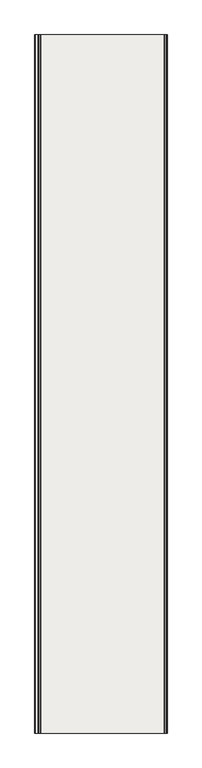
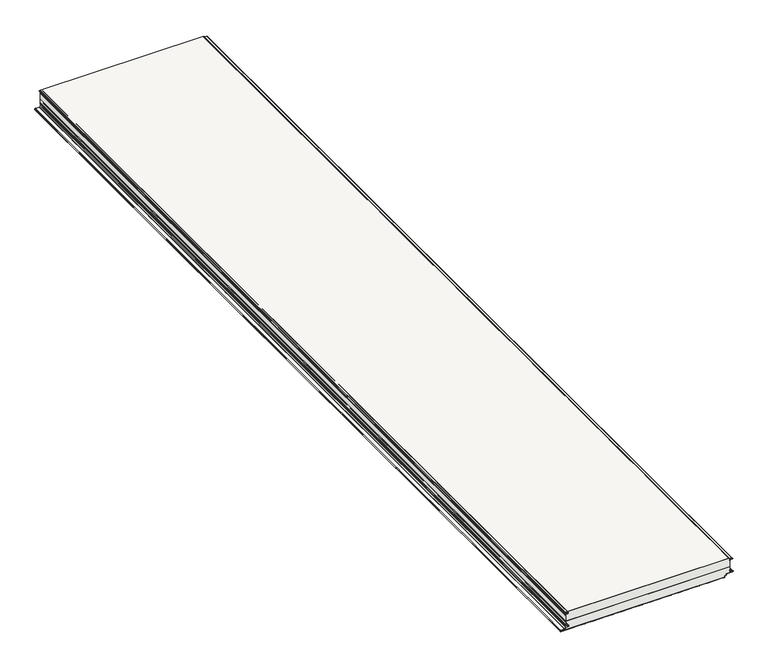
"""IFC4 building model written with IfcOpenShell, lengths in millimetres: covering geometry, Wall sandwich panel SPW-H CORE PIR (single sheet) : -."""

from ifc_helpers import new_model, si_unit, point, frame, frame_2d, origin, place, context, project, spatial, polyline, circle_curve, trimmed, segment, composite_curve, outline, extrude, source, transform, mapped, element, save
from ifc_brep_helpers import plane_surface, cylinder_surface, revolved_surface, advanced_brep


def covering_c912f855(model_context):
    return source(origin(), model_context, "Body", "SolidModel", [
        extrude(outline(composite_curve([segment(polyline([(-15.1088808, -1083.0523342), (-14.5423642, -1072.2421915)]), True, "CONTINUOUS"), segment(trimmed(circle_curve(frame_2d((-9.549216, -1072.5038626)), 5.0), [point((-14.5423642, -1072.2421915))], [point((-4.5522622, -1072.3293564))], False, "CARTESIAN"), True, "CONTINUOUS"), segment(polyline([(-4.5522622, -1072.3293564), (-4.0495702, -1086.7238513)]), True, "CONTINUOUS"), segment(trimmed(circle_curve(frame_2d((-2.5266447, -1086.6173526)), 1.5266447), [point((-4.0495702, -1086.7238513))], [point((-1.0, -1086.6173526))], True, "CARTESIAN"), True, "CONTINUOUS"), segment(polyline([(-1.0, -1086.6173526), (-1.0, -1085.0), (0.0, -1085.0), (0.0, -1086.6173526)]), True, "CONTINUOUS"), segment(trimmed(circle_curve(frame_2d((-2.5266447, -1086.6173526)), 2.5266447), [point((0.0, -1086.6173526))], [point((-5.0484281, -1086.7740115))], False, "CARTESIAN"), True, "CONTINUOUS"), segment(polyline([(-5.0484281, -1086.7740115), (-5.551653, -1072.3642576)]), True, "CONTINUOUS"), segment(trimmed(circle_curve(frame_2d((-9.549216, -1072.5038626)), 4.0), [point((-5.551653, -1072.3642576))], [point((-13.5437346, -1072.2945257))], True, "CARTESIAN"), True, "CONTINUOUS"), segment(polyline([(-13.5437346, -1072.2945257), (-14.1102512, -1083.1046684)]), True, "CONTINUOUS"), segment(trimmed(circle_curve(frame_2d((-16.1075105, -1083.0)), 2.0), [point((-14.1102512, -1083.1046684))], [point((-16.1075105, -1085.0))], False, "CARTESIAN"), True, "CONTINUOUS"), segment(polyline([(-16.1075105, -1085.0), (-18.1075105, -1085.0), (-18.1075105, -1084.0), (-16.1075105, -1084.0)]), True, "CONTINUOUS"), segment(trimmed(circle_curve(frame_2d((-16.1075105, -1083.0)), 1.0), [point((-16.1075105, -1084.0))], [point((-15.1088808, -1083.0523342))], True, "CARTESIAN"), True, "CONTINUOUS")], self_intersect=False)), frame((0.0, -5800.0, 0.0), z_axis=(0.0, 1.0, 0.0), x_axis=(0.0, 0.0, 1.0)), (0.0, 0.0, 1.0), 5800.0),
        advanced_brep(
        [(-1080.5824878, -5800.0, -102.0150874), (-1069.3324878, -5800.0, -101.9992045), (-1069.0709825, -5800.0, -92.0060522), (-1083.2742211, -5800.0, -91.2619406), (-1084.0, -5800.0, -90.4971426), (-1084.0, -5800.0, -81.4971426), (-1085.0, -5800.0, -81.4971426), (-1085.0, -5800.0, -90.4971426), (-1083.3265396, -5800.0, -92.260571), (-1069.123301, -5800.0, -93.0046827), (-1069.3331636, -5800.0, -100.9992044), (-1080.6396582, -5800.0, -101.0151671), (-1082.7899391, -5800.0, -102.27871), (-1088.1496634, -5800.0, -109.933474), (-1090.1975249, -5800.0, -110.9995686), (-1113.4143745, -5800.0, -110.9999738), (-1113.414296, -5800.0, -120.0), (-1085.0, -5800.0, -120.0), (-1085.0, -5800.0, -119.0), (-1113.414296, -5800.0, -119.0), (-1113.4143571, -5800.0, -112.0), (-1090.1975075, -5800.0, -111.9995686), (-1087.3305014, -5800.0, -110.5070361), (-1081.9707771, -5800.0, -102.8522722), (-1080.5824878, 0.0, -102.0150874), (-1081.9707771, 0.0, -102.8522722), (-1087.3305014, 0.0, -110.5070361), (-1090.1975075, 0.0, -111.9995686), (-1113.4143571, 0.0, -111.9999738), (-1113.414296, 0.0, -119.0), (-1085.0, 0.0, -119.0), (-1085.0, 0.0, -120.0), (-1113.414296, 0.0, -120.0), (-1113.4143745, 0.0, -111.0), (-1090.1975249, 0.0, -110.9995686), (-1088.1496634, 0.0, -109.933474), (-1082.7899391, 0.0, -102.27871), (-1080.6396582, 0.0, -101.0151671), (-1069.3331636, 0.0, -100.9992044), (-1069.123301, 0.0, -93.0046827), (-1083.3265396, 0.0, -92.260571), (-1085.0, 0.0, -90.4971426), (-1085.0, 0.0, -81.4971426), (-1084.0, 0.0, -81.4971426), (-1084.0, 0.0, -90.4971426), (-1083.2742211, 0.0, -91.2619406), (-1069.0709825, 0.0, -92.0060522), (-1069.3324878, 0.0, -101.9992045)],
        [
            (0, 1),
            (1, 2, circle_curve(frame((-1069.3325751, -5800.0, -96.9992045), z_axis=(0.0, -1.0, 0.0), x_axis=(1.0, 0.0, 0.0)), 5.0)),
            (2, 3),
            (3, 4, circle_curve(frame((-1083.2341531, -5800.0, -90.4971426), z_axis=(0.0, 1.0, 0.0), x_axis=(1.0, 0.0, 0.0)), 0.7658469)),
            (4, 5),
            (5, 6),
            (6, 7),
            (7, 8, circle_curve(frame((-1083.2341531, -5800.0, -90.4971426), z_axis=(0.0, -1.0, 0.0), x_axis=(1.0, 0.0, 0.0)), 1.7658469)),
            (8, 9),
            (9, 10, circle_curve(frame((-1069.3325751, -5800.0, -96.9992045), z_axis=(0.0, 1.0, 0.0), x_axis=(1.0, 0.0, 0.0)), 4.0)),
            (10, 11),
            (11, 12, circle_curve(frame((-1080.3324529, -5800.0, -103.9993964), z_axis=(0.0, -1.0, 0.0), x_axis=(1.0, 0.0, 0.0)), 3.0)),
            (12, 13),
            (13, 14, circle_curve(frame((-1090.1975686, -5800.0, -108.4995686), z_axis=(0.0, 1.0, 0.0), x_axis=(1.0, 0.0, 0.0)), 2.5)),
            (14, 15),
            (15, 16, circle_curve(frame((-1113.414296, -5800.0, -115.5), z_axis=(0.0, -1.0, 0.0), x_axis=(1.0, 0.0, 0.0)), 4.5)),
            (16, 17),
            (17, 18),
            (18, 19),
            (19, 20, circle_curve(frame((-1113.414296, -5800.0, -115.5), z_axis=(0.0, 1.0, 0.0), x_axis=(1.0, 0.0, 0.0)), 3.5)),
            (20, 21),
            (21, 22, circle_curve(frame((-1090.1975686, -5800.0, -108.4995686), z_axis=(0.0, -1.0, 0.0), x_axis=(1.0, 0.0, 0.0)), 3.5)),
            (22, 23),
            (23, 0, circle_curve(frame((-1080.3324529, -5800.0, -103.9993964), z_axis=(0.0, 1.0, 0.0), x_axis=(1.0, 0.0, 0.0)), 2.0)),
            (24, 25, circle_curve(frame((-1080.3324529, 0.0, -103.9993964), z_axis=(0.0, -1.0, 0.0), x_axis=(1.0, 0.0, 0.0)), 2.0)),
            (25, 26),
            (26, 27, circle_curve(frame((-1090.1975686, 0.0, -108.4995686), z_axis=(0.0, 1.0, 0.0), x_axis=(1.0, 0.0, 0.0)), 3.5)),
            (27, 28),
            (28, 29, circle_curve(frame((-1113.414296, 0.0, -115.5), z_axis=(0.0, -1.0, 0.0), x_axis=(1.0, 0.0, 0.0)), 3.5)),
            (29, 30),
            (30, 31),
            (31, 32),
            (32, 33, circle_curve(frame((-1113.414296, 0.0, -115.5), z_axis=(0.0, 1.0, 0.0), x_axis=(1.0, 0.0, 0.0)), 4.5)),
            (33, 34),
            (34, 35, circle_curve(frame((-1090.1975686, 0.0, -108.4995686), z_axis=(0.0, -1.0, 0.0), x_axis=(1.0, 0.0, 0.0)), 2.5)),
            (35, 36),
            (36, 37, circle_curve(frame((-1080.3324529, 0.0, -103.9993964), z_axis=(0.0, 1.0, 0.0), x_axis=(1.0, 0.0, 0.0)), 3.0)),
            (37, 38),
            (38, 39, circle_curve(frame((-1069.3325751, 0.0, -96.9992045), z_axis=(0.0, -1.0, 0.0), x_axis=(1.0, 0.0, 0.0)), 4.0)),
            (39, 40),
            (40, 41, circle_curve(frame((-1083.2341531, 0.0, -90.4971426), z_axis=(0.0, 1.0, 0.0), x_axis=(1.0, 0.0, 0.0)), 1.7658469)),
            (41, 42),
            (42, 43),
            (43, 44),
            (44, 45, circle_curve(frame((-1083.2341531, 0.0, -90.4971426), z_axis=(0.0, -1.0, 0.0), x_axis=(1.0, 0.0, 0.0)), 0.7658469)),
            (45, 46),
            (46, 47, circle_curve(frame((-1069.3325751, 0.0, -96.9992045), z_axis=(0.0, 1.0, 0.0), x_axis=(1.0, 0.0, 0.0)), 5.0)),
            (47, 24),
            (0, 24),
            (47, 1),
            (46, 2),
            (45, 3),
            (44, 4),
            (43, 5),
            (42, 6),
            (16, 32),
            (31, 17),
            (30, 18),
            (29, 19),
            (41, 7),
            (40, 8),
            (39, 9),
            (38, 10),
            (37, 11),
            (36, 12),
            (35, 13),
            (34, 14),
            (33, 15),
            (20, 28),
            (27, 21),
            (26, 22),
            (25, 23),
        ],
        [
            plane_surface(frame((-1085.0, -5800.0, -120.0), z_axis=(0.0, -1.0, 0.0), x_axis=(0.0, 0.0, -1.0))),
            plane_surface(frame((-1085.0, 0.0, -120.0), z_axis=(0.0, 1.0, 0.0), x_axis=(0.0, 0.0, -1.0))),
            plane_surface(frame((-1080.5824878, -5800.0, -102.0150874), z_axis=(0.001411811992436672, 0.0, -0.9999990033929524), x_axis=(0.0, 1.0, 0.0))),
            cylinder_surface(frame((-1069.3325751, -5800.0, -96.9992045), z_axis=(0.0, -1.0, 0.0), x_axis=(1.0, 0.0, 0.0)), 5.0),
            plane_surface(frame((-1069.0709825, -5800.0, -92.0060522), z_axis=(0.05231852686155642, 0.0, 0.998630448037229), x_axis=(0.0, 1.0, 0.0))),
            revolved_surface(polyline([(-1082.4683062, 0.0, -90.4971426), (-1082.4683062, -5800.0, -90.4971426)]), (-1083.2341531, -5800.0, -90.4971426), (0.0, 1.0, 0.0)),
            plane_surface(frame((-1084.0, -5800.0, -90.4971426), z_axis=(1.0, 0.0, 0.0), x_axis=(0.0, 1.0, 0.0))),
            plane_surface(frame((-1084.0, -5800.0, -81.4971426), z_axis=(0.0, 0.0, 1.0), x_axis=(0.0, 1.0, 0.0))),
            plane_surface(frame((-1113.414296, -5800.0, -120.0), z_axis=(0.0, 0.0, -1.0), x_axis=(0.0, 1.0, 0.0))),
            plane_surface(frame((-1085.0, -5800.0, -120.0), z_axis=(1.0, 0.0, 0.0), x_axis=(0.0, 1.0, 0.0))),
            plane_surface(frame((-1085.0, -5800.0, -119.0), z_axis=(0.0, 0.0, 1.0), x_axis=(0.0, 1.0, 0.0))),
            plane_surface(frame((-1085.0, -5800.0, -81.4971426), z_axis=(-1.0, 0.0, 0.0), x_axis=(0.0, 1.0, 0.0))),
            cylinder_surface(frame((-1083.2341531, -5800.0, -90.4971426), z_axis=(0.0, -1.0, 0.0), x_axis=(1.0, 0.0, 0.0)), 1.7658469),
            plane_surface(frame((-1083.3265396, -5800.0, -92.260571), z_axis=(-0.05231852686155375, 0.0, -0.9986304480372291), x_axis=(0.0, 1.0, 0.0))),
            revolved_surface(polyline([(-1065.3325751, 0.0, -96.9992045), (-1065.3325751, -5800.0, -96.9992045)]), (-1069.3325751, -5800.0, -96.9992045), (0.0, 1.0, 0.0)),
            plane_surface(frame((-1069.3331636, -5800.0, -100.9992044), z_axis=(-0.0014118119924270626, 0.0, 0.9999990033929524), x_axis=(0.0, 1.0, 0.0))),
            cylinder_surface(frame((-1080.3324529, -5800.0, -103.9993964), z_axis=(0.0, -1.0, 0.0), x_axis=(1.0, 0.0, 0.0)), 3.0),
            plane_surface(frame((-1082.7899391, -5800.0, -102.27871), z_axis=(-0.8191620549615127, 0.0, 0.573562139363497), x_axis=(0.0, 1.0, 0.0))),
            revolved_surface(polyline([(-1087.6975686, 0.0, -108.4995686), (-1087.6975686, -5800.0, -108.4995686)]), (-1090.1975686, -5800.0, -108.4995686), (0.0, 1.0, 0.0)),
            plane_surface(frame((-1090.1975249, -5800.0, -110.9995686), z_axis=(-1.745329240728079e-05, 0.0, 0.9999999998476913), x_axis=(0.0, 1.0, 0.0))),
            plane_surface(frame((-1113.4143571, -5800.0, -111.9999738), z_axis=(1.7453292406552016e-05, 0.0, -0.9999999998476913), x_axis=(0.0, 1.0, 0.0))),
            cylinder_surface(frame((-1090.1975686, -5800.0, -108.4995686), z_axis=(0.0, -1.0, 0.0), x_axis=(1.0, 0.0, 0.0)), 3.5),
            plane_surface(frame((-1087.3305014, -5800.0, -110.5070361), z_axis=(0.8191620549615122, 0.0, -0.5735621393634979), x_axis=(0.0, 1.0, 0.0))),
            revolved_surface(polyline([(-1078.3324529, 0.0, -103.9993964), (-1078.3324529, -5800.0, -103.9993964)]), (-1080.3324529, -5800.0, -103.9993964), (0.0, 1.0, 0.0)),
            cylinder_surface(frame((-1113.414296, -5800.0, -115.5), z_axis=(0.0, -1.0, 0.0), x_axis=(1.0, 0.0, 0.0)), 4.5),
            revolved_surface(polyline([(-1109.914296, 0.0, -115.5), (-1109.914296, -5800.0, -115.5)]), (-1113.414296, -5800.0, -115.5), (0.0, 1.0, 0.0)),
        ],
        [
            (0, [[1, 2, 3, 4, 5, 6, 7, 8, 9, 10, 11, 12, 13, 14, 15, 16, 17, 18, 19, 20, 21, 22, 23, 24]]),
            (1, [[25, 26, 27, 28, 29, 30, 31, 32, 33, 34, 35, 36, 37, 38, 39, 40, 41, 42, 43, 44, 45, 46, 47, 48]]),
            (2, [[-1, 49, -48, 50]]),
            (3, [[-2, -50, -47, 51]]),
            (4, [[-3, -51, -46, 52]]),
            (5, [[-4, -52, -45, 53]]),
            (6, [[-5, -53, -44, 54]]),
            (7, [[-6, -54, -43, 55]]),
            (8, [[-17, 56, -32, 57]]),
            (9, [[-18, -57, -31, 58]]),
            (10, [[-19, -58, -30, 59]]),
            (11, [[-7, -55, -42, 60]]),
            (12, [[-8, -60, -41, 61]]),
            (13, [[-9, -61, -40, 62]]),
            (14, [[-10, -62, -39, 63]]),
            (15, [[-11, -63, -38, 64]]),
            (16, [[-12, -64, -37, 65]]),
            (17, [[-13, -65, -36, 66]]),
            (18, [[-14, -66, -35, 67]]),
            (19, [[-15, -67, -34, 68]]),
            (20, [[-21, 69, -28, 70]]),
            (21, [[-22, -70, -27, 71]]),
            (22, [[-23, -71, -26, 72]]),
            (23, [[-24, -72, -25, -49]]),
            (24, [[-16, -68, -33, -56]]),
            (25, [[-20, -59, -29, -69]]),
        ],
    ),
        extrude(outline(composite_curve([segment(polyline([(-120.0, -1049.0098003), (-119.6, -1047.6275239), (-119.6, -1003.4098003), (-120.0, -1002.0275239), (-120.0, -957.8098003), (-119.6, -956.4275239), (-119.6, -912.2098003), (-120.0, -910.8275239), (-120.0, -866.6098003), (-119.6, -865.2275239), (-119.6, -821.0098003), (-120.0, -819.6275239), (-120.0, -775.4098003), (-119.6, -774.0275239), (-119.6, -729.8098003), (-120.0, -728.4275239), (-120.0, -684.2098003), (-119.6, -682.8275239), (-119.6, -638.6098003), (-120.0, -637.2275239), (-120.0, -593.0098003), (-119.6, -591.6275239), (-119.6, -547.4098003), (-120.0, -546.0275239), (-120.0, -501.8098003), (-119.6, -500.4275239), (-119.6, -456.2098003), (-120.0, -454.8275239), (-120.0, -410.6098003), (-119.6, -409.2275239), (-119.6, -365.0098003), (-120.0, -363.6275239), (-120.0, -319.4098003), (-119.6, -318.0275239), (-119.6, -273.8098003), (-120.0, -272.4275239), (-120.0, -228.2098003), (-119.6, -226.8275239), (-119.6, -182.6098003), (-120.0, -181.2275239), (-120.0, -137.0098003), (-119.6, -135.6275239), (-119.6, -91.4098003), (-120.0, -90.0275239), (-120.0, -73.4477183)]), True, "CONTINUOUS"), segment(trimmed(circle_curve(frame_2d((-115.0, -73.4477183)), 5.0), [point((-120.0, -73.4477183))], [point((-115.0, -68.4477183))], False, "CARTESIAN"), True, "CONTINUOUS"), segment(polyline([(-115.0, -68.4477183), (-112.008232, -68.4477183)]), True, "CONTINUOUS"), segment(trimmed(circle_curve(frame_2d((-112.008232, -66.4315256)), 2.0161927), [point((-112.008232, -68.4477183))], [point((-109.9920393, -66.4315256))], True, "CARTESIAN"), True, "CONTINUOUS"), segment(polyline([(-109.9920393, -66.4315256), (-109.9920393, -60.9141788)]), True, "CONTINUOUS"), segment(trimmed(circle_curve(frame_2d((-107.4959919, -60.9141788)), 2.4960474), [point((-109.9920393, -60.9141788))], [point((-107.9326372, -58.4566204))], False, "CARTESIAN"), True, "CONTINUOUS"), segment(polyline([(-107.9326372, -58.4566204), (-101.6533464, -57.3460478)]), True, "CONTINUOUS"), segment(trimmed(circle_curve(frame_2d((-102.0004127, -55.3763918)), 2.0), [point((-101.6533464, -57.3460478))], [point((-100.0004127, -55.3763918))], True, "CARTESIAN"), True, "CONTINUOUS"), segment(polyline([(-100.0004127, -55.3763918), (-100.0004127, -18.8763918)]), True, "CONTINUOUS"), segment(trimmed(circle_curve(frame_2d((-97.0004127, -18.8763918)), 3.0), [point((-100.0004127, -18.8763918))], [point((-94.0045241, -18.7193839))], False, "CARTESIAN"), True, "CONTINUOUS"), segment(polyline([(-94.0045241, -18.7193839), (-93.2754556, -32.6308399)]), True, "CONTINUOUS"), segment(trimmed(circle_curve(frame_2d((-90.7788817, -32.5)), 2.5), [point((-93.2754556, -32.6308399))], [point((-90.7788817, -35.0))], True, "CARTESIAN"), True, "CONTINUOUS"), segment(polyline([(-90.7788817, -35.0), (-81.4988817, -35.0), (-81.4988817, -36.0), (-90.7788817, -36.0)]), True, "CONTINUOUS"), segment(trimmed(circle_curve(frame_2d((-90.7788817, -32.5)), 3.5), [point((-90.7788817, -36.0))], [point((-94.2740851, -32.6831758))], False, "CARTESIAN"), True, "CONTINUOUS"), segment(polyline([(-94.2740851, -32.6831758), (-95.0031536, -18.7717199)]), True, "CONTINUOUS"), segment(trimmed(circle_curve(frame_2d((-97.0004127, -18.8763918)), 2.0), [point((-95.0031536, -18.7717199))], [point((-99.0004127, -18.8763918))], True, "CARTESIAN"), True, "CONTINUOUS"), segment(polyline([(-99.0004127, -18.8763918), (-99.0004127, -55.3763918)]), True, "CONTINUOUS"), segment(trimmed(circle_curve(frame_2d((-102.0004127, -55.3763918)), 3.0), [point((-99.0004127, -55.3763918))], [point((-101.4794682, -58.330815))], False, "CARTESIAN"), True, "CONTINUOUS"), segment(polyline([(-101.4794682, -58.330815), (-107.7580406, -59.4412605)]), True, "CONTINUOUS"), segment(trimmed(circle_curve(frame_2d((-107.4959919, -60.9141788)), 1.4960474), [point((-107.7580406, -59.4412605))], [point((-108.9920393, -60.9141788))], True, "CARTESIAN"), True, "CONTINUOUS"), segment(polyline([(-108.9920393, -60.9141788), (-108.9920393, -66.4315256)]), True, "CONTINUOUS"), segment(trimmed(circle_curve(frame_2d((-112.008232, -66.4315256)), 3.0161927), [point((-108.9920393, -66.4315256))], [point((-112.008232, -69.4477183))], False, "CARTESIAN"), True, "CONTINUOUS"), segment(polyline([(-112.008232, -69.4477183), (-115.0, -69.4477183)]), True, "CONTINUOUS"), segment(trimmed(circle_curve(frame_2d((-115.0, -73.4477183)), 4.0), [point((-115.0, -69.4477183))], [point((-119.0, -73.4477183))], True, "CARTESIAN"), True, "CONTINUOUS"), segment(polyline([(-119.0, -73.4477183), (-119.0, -1085.0), (-120.0, -1085.0), (-120.0, -1049.0098003)]), True, "CONTINUOUS")], self_intersect=False)), frame((0.0, -5800.0, 0.0), z_axis=(0.0, 1.0, 0.0), x_axis=(0.0, 0.0, 1.0)), (0.0, 0.0, 1.0), 5800.0),
        extrude(outline(composite_curve([segment(polyline([(-1.0, -1085.0), (-1.0, -42.1186621)]), True, "CONTINUOUS"), segment(trimmed(circle_curve(frame_2d((-2.5, -42.1186621)), 1.5), [point((-1.0, -42.1186621))], [point((-2.5, -40.6186621))], True, "CARTESIAN"), True, "CONTINUOUS"), segment(polyline([(-2.5, -40.6186621), (-4.3, -40.6186621)]), True, "CONTINUOUS"), segment(trimmed(circle_curve(frame_2d((-4.3, -38.1186621)), 2.5), [point((-4.3, -40.6186621))], [point((-6.7984771, -38.2059108))], False, "CARTESIAN"), True, "CONTINUOUS"), segment(polyline([(-6.7984771, -38.2059108), (-7.363951, -22.012857)]), True, "CONTINUOUS"), segment(trimmed(circle_curve(frame_2d((-9.3627326, -22.082656)), 2.0), [point((-7.363951, -22.012857))], [point((-11.3599917, -21.9779841))], True, "CARTESIAN"), True, "CONTINUOUS"), segment(polyline([(-11.3599917, -21.9779841), (-11.921027, -32.6831758)]), True, "CONTINUOUS"), segment(trimmed(circle_curve(frame_2d((-15.4162304, -32.5)), 3.5), [point((-11.921027, -32.6831758))], [point((-15.4162304, -36.0))], False, "CARTESIAN"), True, "CONTINUOUS"), segment(polyline([(-15.4162304, -36.0), (-18.1062304, -36.0), (-18.1062304, -35.0), (-15.4162304, -35.0)]), True, "CONTINUOUS"), segment(trimmed(circle_curve(frame_2d((-15.4162304, -32.5)), 2.5), [point((-15.4162304, -35.0))], [point((-12.9196566, -32.6308399))], True, "CARTESIAN"), True, "CONTINUOUS"), segment(polyline([(-12.9196566, -32.6308399), (-12.3586212, -21.9256482)]), True, "CONTINUOUS"), segment(trimmed(circle_curve(frame_2d((-9.3627326, -22.082656)), 3.0), [point((-12.3586212, -21.9256482))], [point((-6.3645601, -21.9779575))], False, "CARTESIAN"), True, "CONTINUOUS"), segment(polyline([(-6.3645601, -21.9779575), (-5.7990862, -38.1710114)]), True, "CONTINUOUS"), segment(trimmed(circle_curve(frame_2d((-4.3, -38.1186621)), 1.5), [point((-5.7990862, -38.1710114))], [point((-4.3, -39.6186621))], True, "CARTESIAN"), True, "CONTINUOUS"), segment(polyline([(-4.3, -39.6186621), (-2.5, -39.6186621)]), True, "CONTINUOUS"), segment(trimmed(circle_curve(frame_2d((-2.5, -42.1186621)), 2.5), [point((-2.5, -39.6186621))], [point((0.0, -42.1186621))], False, "CARTESIAN"), True, "CONTINUOUS"), segment(polyline([(0.0, -42.1186621), (0.0, -1085.0), (-1.0, -1085.0)]), True, "CONTINUOUS")], self_intersect=False)), frame((0.0, -5800.0, 0.0), z_axis=(0.0, 1.0, 0.0), x_axis=(0.0, 0.0, 1.0)), (0.0, 0.0, 1.0), 5800.0),
        advanced_brep(
        [(-1113.414296, -5800.0, -119.0), (-1085.0, -5800.0, -119.0), (-73.4477183, -5800.0, -119.0), (-69.4477183, -5800.0, -115.0), (-69.4477183, -5800.0, -112.0078193), (-66.4315256, -5800.0, -108.9916266), (-60.9141788, -5800.0, -108.9916266), (-59.4412605, -5800.0, -107.7576279), (-58.330815, -5800.0, -101.4790555), (-55.3763918, -5800.0, -99.0), (-18.8763918, -5800.0, -99.0), (-18.7717199, -5800.0, -95.0027409), (-32.6831758, -5800.0, -94.2736724), (-36.0, -5800.0, -90.778469), (-36.0, -5800.0, -60.0), (-1084.0, -5800.0, -60.0), (-1084.0, -5800.0, -90.4971426), (-1083.2742211, -5800.0, -91.2619406), (-1069.0709825, -5800.0, -92.0060522), (-1069.3324878, -5800.0, -101.9992045), (-1080.3324878, -5800.0, -101.9993964), (-1081.9707771, -5800.0, -102.8522722), (-1087.3305014, -5800.0, -110.5070361), (-1090.1975075, -5800.0, -111.9995686), (-1113.4143571, -5800.0, -111.9999738), (-1085.0, 0.0, -119.0), (-1113.414296, 0.0, -119.0), (-1113.4143571, 0.0, -112.0), (-1090.1975075, 0.0, -111.9995686), (-1087.3305014, 0.0, -110.5070361), (-1081.9707771, 0.0, -102.8522722), (-1080.3324878, 0.0, -101.9993964), (-1069.3324878, 0.0, -101.9992045), (-1069.0709825, 0.0, -92.0060522), (-1083.2742211, 0.0, -91.2619406), (-1084.0, 0.0, -90.4971426), (-1084.0, 0.0, -60.0), (-36.0, 0.0, -60.0), (-36.0, 0.0, -90.778469), (-32.6831758, 0.0, -94.2736724), (-18.7717199, 0.0, -95.0027409), (-18.8763918, 0.0, -99.0), (-55.3763918, 0.0, -99.0), (-58.330815, 0.0, -101.4790555), (-59.4412605, 0.0, -107.7576279), (-60.9141788, 0.0, -108.9916266), (-66.4315256, 0.0, -108.9916266), (-69.4477183, 0.0, -112.0078193), (-69.4477183, 0.0, -115.0), (-73.4477183, 0.0, -119.0)],
        [
            (0, 1),
            (1, 2),
            (2, 3, circle_curve(frame((-73.4477183, -5800.0, -115.0), z_axis=(0.0, -1.0, 0.0), x_axis=(-1.0, 0.0, 0.0)), 4.0)),
            (3, 4),
            (4, 5, circle_curve(frame((-66.4315256, -5800.0, -112.0078193), z_axis=(0.0, 1.0, 0.0), x_axis=(-1.0, 0.0, 0.0)), 3.0161927)),
            (5, 6),
            (6, 7, circle_curve(frame((-60.9141788, -5800.0, -107.4955792), z_axis=(0.0, -1.0, 0.0), x_axis=(-1.0, 0.0, 0.0)), 1.4960474)),
            (7, 8),
            (8, 9, circle_curve(frame((-55.3763918, -5800.0, -102.0), z_axis=(0.0, 1.0, 0.0), x_axis=(-1.0, 0.0, 0.0)), 3.0)),
            (9, 10),
            (10, 11, circle_curve(frame((-18.8763918, -5800.0, -97.0), z_axis=(0.0, -1.0, 0.0), x_axis=(-1.0, 0.0, 0.0)), 2.0)),
            (11, 12),
            (12, 13, circle_curve(frame((-32.5, -5800.0, -90.778469), z_axis=(0.0, 1.0, 0.0), x_axis=(-1.0, 0.0, 0.0)), 3.5)),
            (13, 14),
            (14, 15),
            (15, 16),
            (16, 17, circle_curve(frame((-1083.2341531, -5800.0, -90.4971426), z_axis=(0.0, -1.0, 0.0), x_axis=(-1.0, 0.0, 0.0)), 0.7658469)),
            (17, 18),
            (18, 19, circle_curve(frame((-1069.3325751, -5800.0, -96.9992045), z_axis=(0.0, 1.0, 0.0), x_axis=(-1.0, 0.0, 0.0)), 5.0)),
            (19, 20),
            (20, 21, circle_curve(frame((-1080.3324529, -5800.0, -103.9993964), z_axis=(0.0, -1.0, 0.0), x_axis=(-1.0, 0.0, 0.0)), 2.0)),
            (21, 22),
            (22, 23, circle_curve(frame((-1090.1975686, -5800.0, -108.4995686), z_axis=(0.0, 1.0, 0.0), x_axis=(-1.0, 0.0, 0.0)), 3.5)),
            (23, 24),
            (24, 0, circle_curve(frame((-1113.414296, -5800.0, -115.5), z_axis=(0.0, -1.0, 0.0), x_axis=(-1.0, 0.0, 0.0)), 3.5)),
            (25, 26),
            (26, 27, circle_curve(frame((-1113.414296, 0.0, -115.5), z_axis=(0.0, 1.0, 0.0), x_axis=(-1.0, 0.0, 0.0)), 3.5)),
            (27, 28),
            (28, 29, circle_curve(frame((-1090.1975686, 0.0, -108.4995686), z_axis=(0.0, -1.0, 0.0), x_axis=(-1.0, 0.0, 0.0)), 3.5)),
            (29, 30),
            (30, 31, circle_curve(frame((-1080.3324529, 0.0, -103.9993964), z_axis=(0.0, 1.0, 0.0), x_axis=(-1.0, 0.0, 0.0)), 2.0)),
            (31, 32),
            (32, 33, circle_curve(frame((-1069.3325751, 0.0, -96.9992045), z_axis=(0.0, -1.0, 0.0), x_axis=(-1.0, 0.0, 0.0)), 5.0)),
            (33, 34),
            (34, 35, circle_curve(frame((-1083.2341531, 0.0, -90.4971426), z_axis=(0.0, 1.0, 0.0), x_axis=(-1.0, 0.0, 0.0)), 0.7658469)),
            (35, 36),
            (36, 37),
            (37, 38),
            (38, 39, circle_curve(frame((-32.5, 0.0, -90.778469), z_axis=(0.0, -1.0, 0.0), x_axis=(-1.0, 0.0, 0.0)), 3.5)),
            (39, 40),
            (40, 41, circle_curve(frame((-18.8763918, 0.0, -97.0), z_axis=(0.0, 1.0, 0.0), x_axis=(-1.0, 0.0, 0.0)), 2.0)),
            (41, 42),
            (42, 43, circle_curve(frame((-55.3763918, 0.0, -102.0), z_axis=(0.0, -1.0, 0.0), x_axis=(-1.0, 0.0, 0.0)), 3.0)),
            (43, 44),
            (44, 45, circle_curve(frame((-60.9141788, 0.0, -107.4955792), z_axis=(0.0, 1.0, 0.0), x_axis=(-1.0, 0.0, 0.0)), 1.4960474)),
            (45, 46),
            (46, 47, circle_curve(frame((-66.4315256, 0.0, -112.0078193), z_axis=(0.0, -1.0, 0.0), x_axis=(-1.0, 0.0, 0.0)), 3.0161927)),
            (47, 48),
            (48, 49, circle_curve(frame((-73.4477183, 0.0, -115.0), z_axis=(0.0, 1.0, 0.0), x_axis=(-1.0, 0.0, 0.0)), 4.0)),
            (49, 25),
            (36, 15),
            (14, 37),
            (0, 26),
            (49, 2),
            (23, 28),
            (27, 24),
            (22, 29),
            (21, 30),
            (20, 31),
            (19, 32),
            (18, 33),
            (17, 34),
            (16, 35),
            (13, 38),
            (12, 39),
            (11, 40),
            (10, 41),
            (9, 42),
            (8, 43),
            (7, 44),
            (6, 45),
            (5, 46),
            (4, 47),
            (3, 48),
        ],
        [
            plane_surface(frame((-1145.0, -5800.0, -60.0), z_axis=(0.0, -1.0, 0.0), x_axis=(-1.0, 0.0, 0.0))),
            plane_surface(frame((-1145.0, 0.0, -60.0), z_axis=(0.0, 1.0, 0.0), x_axis=(1.0, 0.0, 0.0))),
            plane_surface(frame((15.0, -5800.0, -60.0), z_axis=(0.0, 0.0, 1.0), x_axis=(0.0, 1.0, 0.0))),
            plane_surface(frame((-1145.0, -5800.0, -119.0), z_axis=(0.0, 0.0, -1.0), x_axis=(0.0, 1.0, 0.0))),
            plane_surface(frame((-1113.4143571, -5800.0, -111.9999738), z_axis=(-1.7453294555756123e-05, 0.0, 0.9999999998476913), x_axis=(0.0, 1.0, 0.0))),
            revolved_surface(polyline([(-1093.6975686, -5800.0, -108.4995686), (-1093.6975686, 0.0, -108.4995686)]), (-1090.1975686, -5800.0, -108.4995686), (0.0, -1.0, 0.0)),
            plane_surface(frame((-1087.3305014, -5800.0, -110.5070361), z_axis=(-0.8191620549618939, 0.0, 0.5735621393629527), x_axis=(0.0, 1.0, 0.0))),
            cylinder_surface(frame((-1080.3324529, -5800.0, -103.9993964), z_axis=(0.0, 1.0, 0.0), x_axis=(-1.0, 0.0, 0.0)), 2.0),
            plane_surface(frame((-1080.3324878, -5800.0, -101.9993964), z_axis=(-1.7453292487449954e-05, 0.0, 0.9999999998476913), x_axis=(0.0, 1.0, 0.0))),
            revolved_surface(polyline([(-1074.3325751, -5800.0, -96.9992045), (-1074.3325751, 0.0, -96.9992045)]), (-1069.3325751, -5800.0, -96.9992045), (0.0, -1.0, 0.0)),
            plane_surface(frame((-1069.0709825, -5800.0, -92.0060522), z_axis=(-0.05231852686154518, 0.0, -0.9986304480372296), x_axis=(0.0, 1.0, 0.0))),
            cylinder_surface(frame((-1083.2341531, -5800.0, -90.4971426), z_axis=(0.0, 1.0, 0.0), x_axis=(-1.0, 0.0, 0.0)), 0.7658469),
            plane_surface(frame((-1084.0, -5800.0, -90.4971426), z_axis=(-1.0, 0.0, 0.0), x_axis=(0.0, 1.0, 0.0))),
            plane_surface(frame((-36.0, -5800.0, -15.4162304), z_axis=(1.0, 0.0, 0.0), x_axis=(0.0, 1.0, 0.0))),
            revolved_surface(polyline([(-36.0, -5800.0, -90.778469), (-36.0, 0.0, -90.778469)]), (-32.5, -5800.0, -90.778469), (0.0, -1.0, 0.0)),
            plane_surface(frame((-32.6831758, -5800.0, -94.2736724), z_axis=(0.05233595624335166, 0.0, 0.9986295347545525), x_axis=(0.0, 1.0, 0.0))),
            cylinder_surface(frame((-18.8763918, -5800.0, -97.0), z_axis=(0.0, 1.0, 0.0), x_axis=(-1.0, 0.0, 0.0)), 2.0),
            plane_surface(frame((-18.8763918, -5800.0, -99.0), z_axis=(0.0, 0.0, -1.0), x_axis=(0.0, 1.0, 0.0))),
            revolved_surface(polyline([(-58.3763918, -5800.0, -102.0), (-58.3763918, 0.0, -102.0)]), (-55.3763918, -5800.0, -102.0), (0.0, -1.0, 0.0)),
            plane_surface(frame((-58.330815, -5800.0, -101.4790555), z_axis=(0.9847174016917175, 0.0, -0.17415980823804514), x_axis=(0.0, 1.0, 0.0))),
            cylinder_surface(frame((-60.9141788, -5800.0, -107.4955792), z_axis=(0.0, 1.0, 0.0), x_axis=(-1.0, 0.0, 0.0)), 1.4960474),
            plane_surface(frame((-60.9141788, -5800.0, -108.9916266), z_axis=(0.0, 0.0, -1.0), x_axis=(0.0, 1.0, 0.0))),
            revolved_surface(polyline([(-69.4477183, -5800.0, -112.0078193), (-69.4477183, 0.0, -112.0078193)]), (-66.4315256, -5800.0, -112.0078193), (0.0, -1.0, 0.0)),
            plane_surface(frame((-69.4477183, -5800.0, -112.0078193), z_axis=(1.0, 0.0, 0.0), x_axis=(0.0, 1.0, 0.0))),
            cylinder_surface(frame((-73.4477183, -5800.0, -115.0), z_axis=(0.0, 1.0, 0.0), x_axis=(-1.0, 0.0, 0.0)), 4.0),
            cylinder_surface(frame((-1113.414296, -5800.0, -115.5), z_axis=(0.0, 1.0, 0.0), x_axis=(-1.0, 0.0, 0.0)), 3.5),
        ],
        [
            (0, [[1, 2, 3, 4, 5, 6, 7, 8, 9, 10, 11, 12, 13, 14, 15, 16, 17, 18, 19, 20, 21, 22, 23, 24, 25]]),
            (1, [[26, 27, 28, 29, 30, 31, 32, 33, 34, 35, 36, 37, 38, 39, 40, 41, 42, 43, 44, 45, 46, 47, 48, 49, 50]]),
            (2, [[51, -15, 52, -37]]),
            (3, [[-1, 53, -26, -50, 54, -2]]),
            (4, [[55, -28, 56, -24]]),
            (5, [[-55, -23, 57, -29]]),
            (6, [[-57, -22, 58, -30]]),
            (7, [[-58, -21, 59, -31]]),
            (8, [[-59, -20, 60, -32]]),
            (9, [[-60, -19, 61, -33]]),
            (10, [[-61, -18, 62, -34]]),
            (11, [[-62, -17, 63, -35]]),
            (12, [[-63, -16, -51, -36]]),
            (13, [[64, -38, -52, -14]]),
            (14, [[-64, -13, 65, -39]]),
            (15, [[-65, -12, 66, -40]]),
            (16, [[-66, -11, 67, -41]]),
            (17, [[-67, -10, 68, -42]]),
            (18, [[-68, -9, 69, -43]]),
            (19, [[-69, -8, 70, -44]]),
            (20, [[-70, -7, 71, -45]]),
            (21, [[-71, -6, 72, -46]]),
            (22, [[-72, -5, 73, -47]]),
            (23, [[-73, -4, 74, -48]]),
            (24, [[-74, -3, -54, -49]]),
            (25, [[-56, -27, -53, -25]]),
        ],
    ),
        advanced_brep(
        [(-1085.0, -5800.0, -1.0), (-1086.6173526, -5800.0, -1.0), (-1086.7238513, -5800.0, -4.0495702), (-1072.3293564, -5800.0, -4.5522622), (-1072.2421915, -5800.0, -14.5423642), (-1083.0523342, -5800.0, -15.1088808), (-1084.0, -5800.0, -16.1075105), (-1084.0, -5800.0, -60.0), (-36.0, -5800.0, -60.0), (-36.0, -5800.0, -15.4162304), (-32.6831758, -5800.0, -11.921027), (-21.9779841, -5800.0, -11.3599917), (-22.012857, -5800.0, -7.363951), (-38.2059108, -5800.0, -6.7984771), (-40.6186621, -5800.0, -4.3), (-40.6186621, -5800.0, -2.5), (-42.1186621, -5800.0, -1.0), (-43.1368714, -5800.0, -1.0), (-1086.6173526, 0.0, -1.0), (-1085.0, 0.0, -1.0), (-43.1368714, 0.0, -1.0), (-42.1186621, 0.0, -1.0), (-40.6186621, 0.0, -2.5), (-40.6186621, 0.0, -4.3), (-38.2059108, 0.0, -6.7984771), (-22.012857, 0.0, -7.363951), (-21.9779841, 0.0, -11.3599917), (-32.6831758, 0.0, -11.921027), (-36.0, 0.0, -15.4162304), (-36.0, 0.0, -60.0), (-1084.0, 0.0, -60.0), (-1084.0, 0.0, -16.1075105), (-1083.0523342, 0.0, -15.1088808), (-1072.2421915, 0.0, -14.5423642), (-1072.3293564, 0.0, -4.5522622), (-1086.7238513, 0.0, -4.0495702)],
        [
            (0, 1),
            (1, 2, circle_curve(frame((-1086.6173526, -5800.0, -2.5266447), z_axis=(0.0, -1.0, 0.0), x_axis=(-1.0, 0.0, 0.0)), 1.5266447)),
            (2, 3),
            (3, 4, circle_curve(frame((-1072.5038626, -5800.0, -9.549216), z_axis=(0.0, 1.0, 0.0), x_axis=(-1.0, 0.0, 0.0)), 5.0)),
            (4, 5),
            (5, 6, circle_curve(frame((-1083.0, -5800.0, -16.1075105), z_axis=(0.0, -1.0, 0.0), x_axis=(-1.0, 0.0, 0.0)), 1.0)),
            (6, 7),
            (7, 8),
            (8, 9),
            (9, 10, circle_curve(frame((-32.5, -5800.0, -15.4162304), z_axis=(0.0, 1.0, 0.0), x_axis=(-1.0, 0.0, 0.0)), 3.5)),
            (10, 11),
            (11, 12, circle_curve(frame((-22.082656, -5800.0, -9.3627326), z_axis=(0.0, -1.0, 0.0), x_axis=(-1.0, 0.0, 0.0)), 2.0)),
            (12, 13),
            (13, 14, circle_curve(frame((-38.1186621, -5800.0, -4.3), z_axis=(0.0, 1.0, 0.0), x_axis=(-1.0, 0.0, 0.0)), 2.5)),
            (14, 15),
            (15, 16, circle_curve(frame((-42.1186621, -5800.0, -2.5), z_axis=(0.0, -1.0, 0.0), x_axis=(-1.0, 0.0, 0.0)), 1.5)),
            (16, 17),
            (17, 0),
            (18, 19),
            (19, 20),
            (20, 21),
            (21, 22, circle_curve(frame((-42.1186621, 0.0, -2.5), z_axis=(0.0, 1.0, 0.0), x_axis=(-1.0, 0.0, 0.0)), 1.5)),
            (22, 23),
            (23, 24, circle_curve(frame((-38.1186621, 0.0, -4.3), z_axis=(0.0, -1.0, 0.0), x_axis=(-1.0, 0.0, 0.0)), 2.5)),
            (24, 25),
            (25, 26, circle_curve(frame((-22.082656, 0.0, -9.3627326), z_axis=(0.0, 1.0, 0.0), x_axis=(-1.0, 0.0, 0.0)), 2.0)),
            (26, 27),
            (27, 28, circle_curve(frame((-32.5, 0.0, -15.4162304), z_axis=(0.0, -1.0, 0.0), x_axis=(-1.0, 0.0, 0.0)), 3.5)),
            (28, 29),
            (29, 30),
            (30, 31),
            (31, 32, circle_curve(frame((-1083.0, 0.0, -16.1075105), z_axis=(0.0, 1.0, 0.0), x_axis=(-1.0, 0.0, 0.0)), 1.0)),
            (32, 33),
            (33, 34, circle_curve(frame((-1072.5038626, 0.0, -9.549216), z_axis=(0.0, -1.0, 0.0), x_axis=(-1.0, 0.0, 0.0)), 5.0)),
            (34, 35),
            (35, 18, circle_curve(frame((-1086.6173526, 0.0, -2.5266447), z_axis=(0.0, 1.0, 0.0), x_axis=(-1.0, 0.0, 0.0)), 1.5266447)),
            (16, 21),
            (18, 1),
            (7, 30),
            (29, 8),
            (6, 31),
            (5, 32),
            (4, 33),
            (3, 34),
            (2, 35),
            (15, 22),
            (14, 23),
            (13, 24),
            (12, 25),
            (11, 26),
            (10, 27),
            (9, 28),
        ],
        [
            plane_surface(frame((-1145.0, -5800.0, -1.0), z_axis=(0.0, -1.0, 0.0), x_axis=(-1.0, 0.0, 0.0))),
            plane_surface(frame((-1145.0, 0.0, -1.0), z_axis=(0.0, 1.0, 0.0), x_axis=(1.0, 0.0, 0.0))),
            plane_surface(frame((-5.0, -5800.0, -1.0), z_axis=(0.0, 0.0, 1.0), x_axis=(0.0, 1.0, 0.0))),
            plane_surface(frame((-1145.0, -5800.0, -60.0), z_axis=(0.0, 0.0, -1.0), x_axis=(0.0, 1.0, 0.0))),
            plane_surface(frame((-1084.0, -5800.0, -90.4971426), z_axis=(-1.0, 0.0, 0.0), x_axis=(0.0, 1.0, 0.0))),
            cylinder_surface(frame((-1083.0, -5800.0, -16.1075105), z_axis=(0.0, 1.0, 0.0), x_axis=(-1.0, 0.0, 0.0)), 1.0),
            plane_surface(frame((-1083.0523342, -5800.0, -15.1088808), z_axis=(-0.052334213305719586, 0.0, 0.9986296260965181), x_axis=(0.0, 1.0, 0.0))),
            revolved_surface(polyline([(-1077.5038626, -5800.0, -9.549216), (-1077.5038626, 0.0, -9.549216)]), (-1072.5038626, -5800.0, -9.549216), (0.0, -1.0, 0.0)),
            plane_surface(frame((-1072.3293564, -5800.0, -4.5522622), z_axis=(-0.03490124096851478, 0.0, -0.9993907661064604), x_axis=(0.0, 1.0, 0.0))),
            cylinder_surface(frame((-42.1186621, -5800.0, -2.5), z_axis=(0.0, 1.0, 0.0), x_axis=(-1.0, 0.0, 0.0)), 1.5),
            plane_surface(frame((-40.6186621, -5800.0, -2.5), z_axis=(1.0, 0.0, 0.0), x_axis=(0.0, 1.0, 0.0))),
            revolved_surface(polyline([(-40.6186621, -5800.0, -4.3), (-40.6186621, 0.0, -4.3)]), (-38.1186621, -5800.0, -4.3), (0.0, -1.0, 0.0)),
            plane_surface(frame((-38.2059108, -5800.0, -6.7984771), z_axis=(0.03489949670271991, 0.0, 0.9993908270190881), x_axis=(0.0, 1.0, 0.0))),
            cylinder_surface(frame((-22.082656, -5800.0, -9.3627326), z_axis=(0.0, 1.0, 0.0), x_axis=(-1.0, 0.0, 0.0)), 2.0),
            plane_surface(frame((-21.9779841, -5800.0, -11.3599917), z_axis=(0.052335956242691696, 0.0, -0.9986295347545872), x_axis=(0.0, 1.0, 0.0))),
            revolved_surface(polyline([(-36.0, -5800.0, -15.4162304), (-36.0, 0.0, -15.4162304)]), (-32.5, -5800.0, -15.4162304), (0.0, -1.0, 0.0)),
            plane_surface(frame((-36.0, -5800.0, -15.4162304), z_axis=(1.0, 0.0, 0.0), x_axis=(0.0, 1.0, 0.0))),
            cylinder_surface(frame((-1086.6173526, -5800.0, -2.5266447), z_axis=(0.0, 1.0, 0.0), x_axis=(-1.0, 0.0, 0.0)), 1.5266447),
        ],
        [
            (0, [[1, 2, 3, 4, 5, 6, 7, 8, 9, 10, 11, 12, 13, 14, 15, 16, 17, 18]]),
            (1, [[19, 20, 21, 22, 23, 24, 25, 26, 27, 28, 29, 30, 31, 32, 33, 34, 35, 36]]),
            (2, [[-1, -18, -17, 37, -21, -20, -19, 38]]),
            (3, [[39, -30, 40, -8]]),
            (4, [[41, -31, -39, -7]]),
            (5, [[-41, -6, 42, -32]]),
            (6, [[-42, -5, 43, -33]]),
            (7, [[-43, -4, 44, -34]]),
            (8, [[-44, -3, 45, -35]]),
            (9, [[46, -22, -37, -16]]),
            (10, [[-46, -15, 47, -23]]),
            (11, [[-47, -14, 48, -24]]),
            (12, [[-48, -13, 49, -25]]),
            (13, [[-49, -12, 50, -26]]),
            (14, [[-50, -11, 51, -27]]),
            (15, [[-51, -10, 52, -28]]),
            (16, [[-52, -9, -40, -29]]),
            (17, [[-45, -2, -38, -36]]),
        ],
    ),
    ])


if __name__ == "__main__":
    model = new_model("IFC4")
    model_context = context("Model", 3, world=origin())
    ifc_project = project(units=[si_unit("LENGTHUNIT", "METRE", prefix="MILLI")], contexts=[model_context])
    site = spatial("IfcSite", under=ifc_project)
    building = spatial("IfcBuilding", under=site)
    placement = place(None, origin())
    covering_shape = covering_c912f855(model_context)
    element("IfcCovering", 1, ObjectType="Wall sandwich panel SPW-H CORE PIR (single sheet) : -", at=placement, inside=building, context=model_context, shape_type="MappedRepresentation", body=[
        mapped(covering_shape, transform((0.0, 0.0, 0.0), x_axis=(1.0, 0.0, 0.0), y_axis=(0.0, 1.0, 0.0), z_axis=(0.0, 0.0, 1.0))),
    ])
    save(model, "model.ifc")
